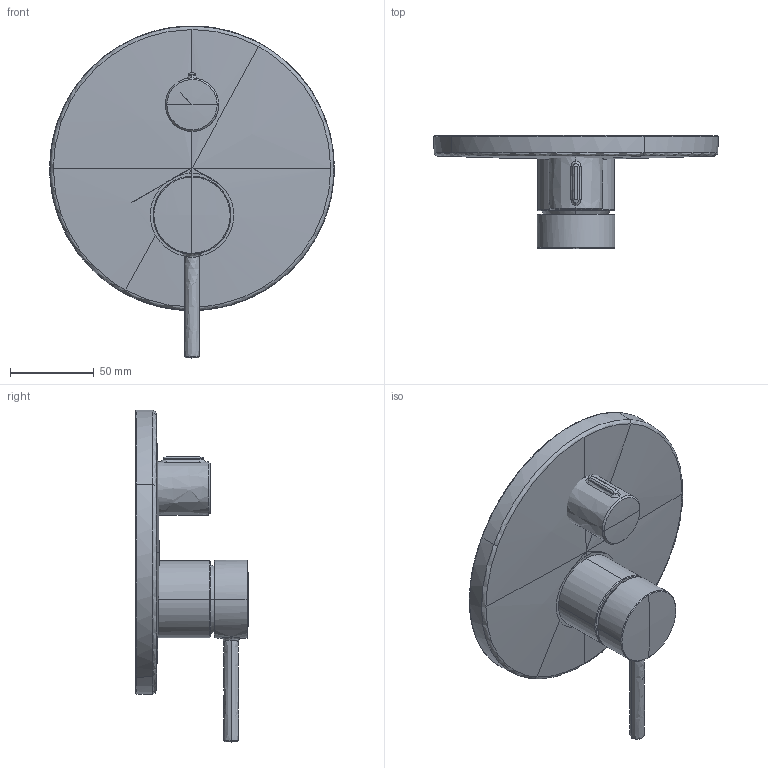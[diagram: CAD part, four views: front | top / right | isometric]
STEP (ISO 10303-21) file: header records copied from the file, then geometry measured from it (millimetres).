
FILE_DESCRIPTION(/* description */ (''),/* implementation_level */ '2;1');
FILE_NAME(/* name */ 'CE4210012010',/* time_stamp */ '2023-01-24T14:23:15+01:00',/* author */ (''),/* organization */ (''),/* preprocessor_version */ 'ST-DEVELOPER v15',/* originating_system */ '',/* authorisation */ '');
FILE_SCHEMA (('AUTOMOTIVE_DESIGN'));
Length unit declared in the file: millimetre
Products named in the file (1): Document
Bounding box: 169.93 x 67.3 x 198.26 mm (x, y, z)
Volume: 378055.7 mm3; surface area: 67292.5 mm2
Topology: 2 solids, 3 shells, 107 faces, 347 edges, 239 vertices
Faces by surface type: bspline 93, plane 14
Entity records: 6574 total; most frequent: CARTESIAN_POINT 4766, ORIENTED_EDGE 664, EDGE_CURVE 335, VERTEX_POINT 239, B_SPLINE_CURVE_WITH_KNOTS 159, EDGE_LOOP 113, ADVANCED_FACE 107, FACE_OUTER_BOUND 107
